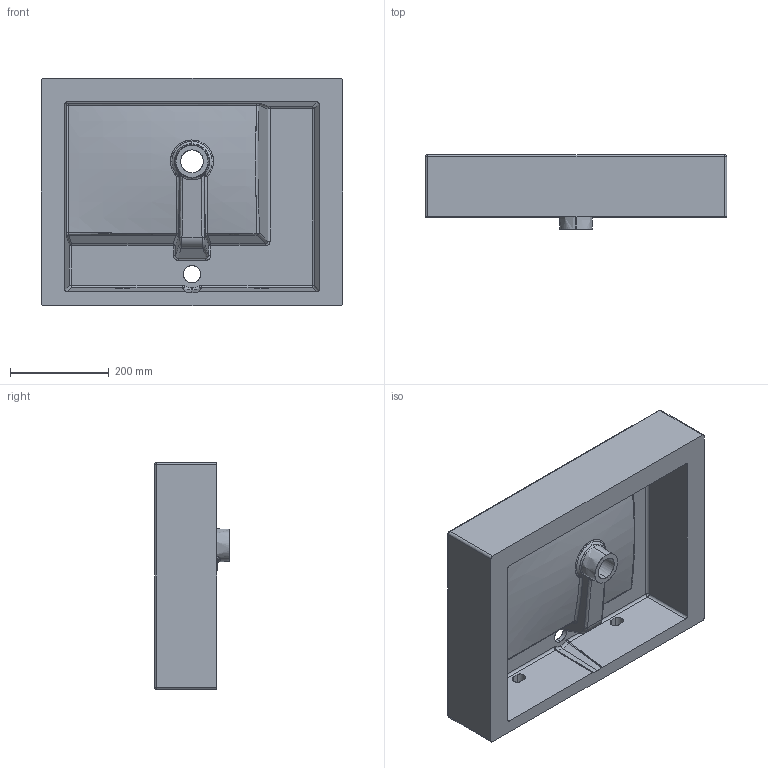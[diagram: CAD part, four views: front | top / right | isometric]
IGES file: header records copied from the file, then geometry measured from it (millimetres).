
Start section: SolidWorks IGES file using analytic representation for surfaces
Global section: file name: \\vmware-host\Shared Folders\Documenti\Lavoro\modifiche Tecla\3D-modifiche\TWENTY 61\PROJECT2017 60 Pdex.IGS; native system: SolidWorks 2017; preprocessor: SolidWorks 2017; author: silvia; date: 171109.154633; units: millimetre
Bounding box: 610 x 150 x 460 mm (x, y, z)
Surface area: 1096535.6 mm2 (no closed solid volume)
Topology: 0 solids, 0 shells, 176 faces, 2158 edges, 2149 vertices
Faces by surface type: bspline 90, revolution 86
